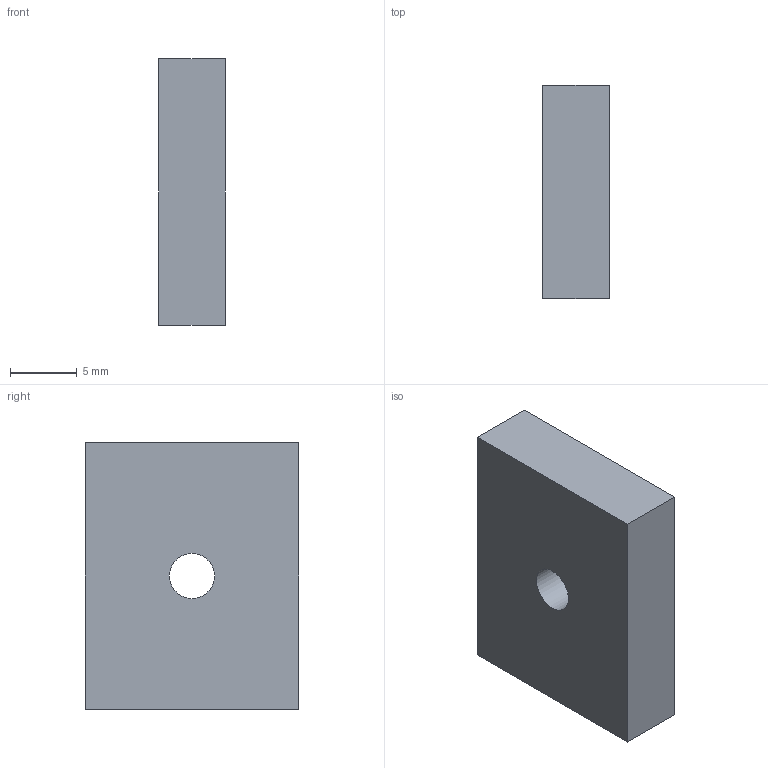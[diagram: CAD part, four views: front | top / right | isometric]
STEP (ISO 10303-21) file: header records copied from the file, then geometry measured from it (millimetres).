
FILE_DESCRIPTION(('Open CASCADE Model'),'2;1');
FILE_NAME('Open CASCADE Shape Model','2026-09-20T05:39:32',('Author'),( 'Open CASCADE'),'Open CASCADE STEP processor 7.9','Open CASCADE 7.9' ,'Unknown');
FILE_SCHEMA(('AUTOMOTIVE_DESIGN { 1 0 10303 214 1 1 1 1 }'));
Length unit declared in the file: millimetre
Products named in the file (1): Open CASCADE STEP translator 7.9 6
Bounding box: 5 x 16 x 20 mm (x, y, z)
Volume: 1554.6 mm3; surface area: 1035.2 mm2
Topology: 1 solids, 1 shells, 7 faces, 15 edges, 10 vertices
Faces by surface type: plane 6, cylinder 1
Full cylindrical faces by diameter (mm): 3.4 x1
Entity records: 400 total; most frequent: CARTESIAN_POINT 63, DIRECTION 63, LINE 41, VECTOR 41, ORIENTED_EDGE 30, PCURVE 30, DEFINITIONAL_REPRESENTATION 30, EDGE_CURVE 15
